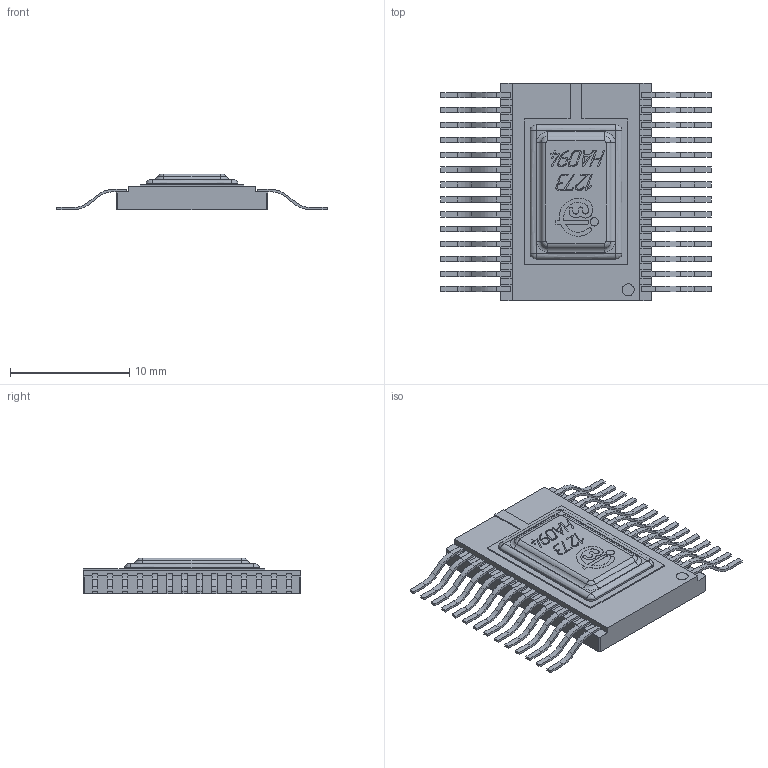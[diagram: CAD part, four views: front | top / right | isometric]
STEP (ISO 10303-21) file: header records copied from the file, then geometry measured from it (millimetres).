
FILE_DESCRIPTION(('STEP AP214'), '1');
FILE_NAME('1273HA094', '', ('UNSPECIFIED'), ('UNSPECIFIED'), 'ASCON STEP Converter 1.6', 'ASCON Math Kernel', '');
FILE_SCHEMA(('AUTOMOTIVE_DESIGN { 1 0 10303 214 3 1 1}'));
Length unit declared in the file: millimetre
Bounding box: 22.7 x 18.25 x 3 mm (x, y, z)
Volume: 534.4 mm3; surface area: 1262.2 mm2
Topology: 32 solids, 32 shells, 1101 faces, 2994 edges, 1968 vertices
Faces by surface type: plane 801, cylinder 273, extrusion 11, torus 8, bspline 8
Full cylindrical faces by diameter (mm): 0.7 x1, 1 x1
Entity records: 44352 total; most frequent: CARTESIAN_POINT 7085, ORIENTED_EDGE 5976, DIRECTION 5693, EDGE_CURVE 2988, VECTOR 2411, LINE 2400, VERTEX_POINT 1968, AXIS2_PLACEMENT_3D 1641
